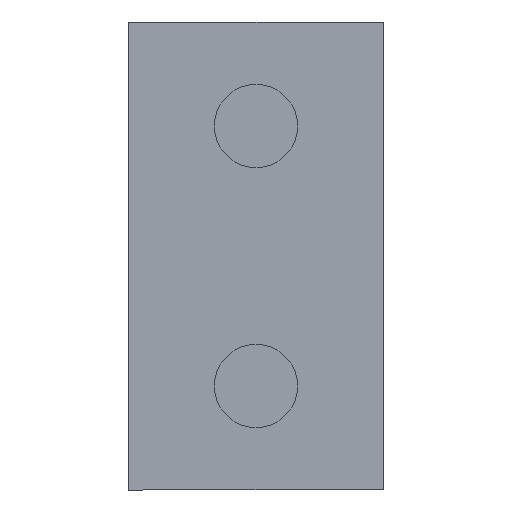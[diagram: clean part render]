
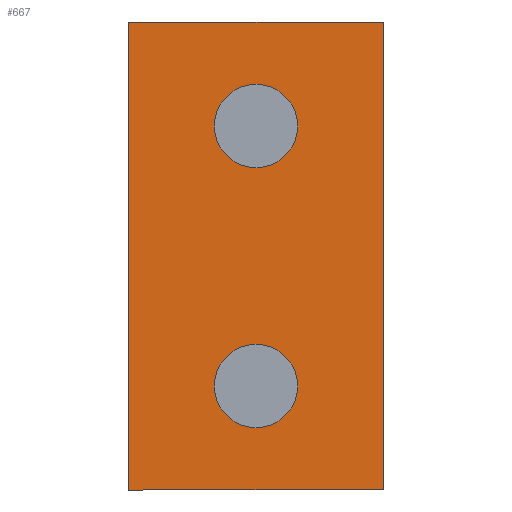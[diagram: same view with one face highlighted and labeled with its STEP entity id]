
A CAD part, left-side view. The second image highlights one B-rep face of the part: STEP entity #667.
In plain terms, the highlighted planar face has unit normal (-1, 0, 0).
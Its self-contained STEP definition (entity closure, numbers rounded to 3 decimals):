
#20=FACE_BOUND('',#114,.T.);
#21=FACE_BOUND('',#115,.T.);
#39=PLANE('',#733);
#71=FACE_OUTER_BOUND('',#113,.T.);
#113=EDGE_LOOP('',(#534,#535,#536,#537));
#114=EDGE_LOOP('',(#538));
#115=EDGE_LOOP('',(#539));
#177=LINE('',#1064,#246);
#178=LINE('',#1066,#247);
#179=LINE('',#1068,#248);
#180=LINE('',#1069,#249);
#246=VECTOR('',#867,10.);
#247=VECTOR('',#868,10.);
#248=VECTOR('',#869,10.);
#249=VECTOR('',#870,10.);
#286=CIRCLE('',#714,1.6);
#288=CIRCLE('',#718,1.6);
#311=VERTEX_POINT('',#984);
#318=VERTEX_POINT('',#1001);
#337=VERTEX_POINT('',#1062);
#338=VERTEX_POINT('',#1063);
#339=VERTEX_POINT('',#1065);
#340=VERTEX_POINT('',#1067);
#375=EDGE_CURVE('',#311,#311,#286,.T.);
#383=EDGE_CURVE('',#318,#318,#288,.T.);
#413=EDGE_CURVE('',#337,#338,#177,.T.);
#414=EDGE_CURVE('',#339,#338,#178,.T.);
#415=EDGE_CURVE('',#339,#340,#179,.T.);
#416=EDGE_CURVE('',#337,#340,#180,.T.);
#534=ORIENTED_EDGE('',*,*,#413,.T.);
#535=ORIENTED_EDGE('',*,*,#414,.F.);
#536=ORIENTED_EDGE('',*,*,#415,.T.);
#537=ORIENTED_EDGE('',*,*,#416,.F.);
#538=ORIENTED_EDGE('',*,*,#375,.T.);
#539=ORIENTED_EDGE('',*,*,#383,.T.);
#667=ADVANCED_FACE('',(#71,#20,#21),#39,.F.);
#714=AXIS2_PLACEMENT_3D('',#985,#795,#796);
#718=AXIS2_PLACEMENT_3D('',#1002,#809,#810);
#733=AXIS2_PLACEMENT_3D('',#1061,#865,#866);
#795=DIRECTION('center_axis',(1.,0.,0.));
#796=DIRECTION('ref_axis',(0.,-1.,0.));
#809=DIRECTION('center_axis',(1.,0.,0.));
#810=DIRECTION('ref_axis',(0.,-1.,0.));
#865=DIRECTION('center_axis',(1.,0.,0.));
#866=DIRECTION('ref_axis',(0.,0.,
1.));
#867=DIRECTION('',(0.,0.,1.));
#868=DIRECTION('',(0.,-1.,0.));
#869=DIRECTION('',(0.,0.,-1.));
#870=DIRECTION('',(0.,1.,0.));
#984=CARTESIAN_POINT('',(41.226,26.7,-5.916));
#985=CARTESIAN_POINT('Origin',(41.226,25.1,-5.916));
#1001=CARTESIAN_POINT('',(41.226,26.7,4.084));
#1002=CARTESIAN_POINT('Origin',(41.226,25.1,4.084));
#1061=CARTESIAN_POINT('Origin',(41.226,8.5,-25.916));
#1062=CARTESIAN_POINT('',(41.226,20.2,-9.916));
#1063=CARTESIAN_POINT('',(41.226,20.2,8.084));
#1064=CARTESIAN_POINT('',(41.226,20.2,1.084));
#1065=CARTESIAN_POINT('',(41.226,30.,8.084));
#1066=CARTESIAN_POINT('',(41.226,0.,8.084));
#1067=CARTESIAN_POINT('',(41.226,30.,-9.916));
#1068=CARTESIAN_POINT('',(41.226,30.,1.084));
#1069=CARTESIAN_POINT('',(41.226,0.,-9.916));
